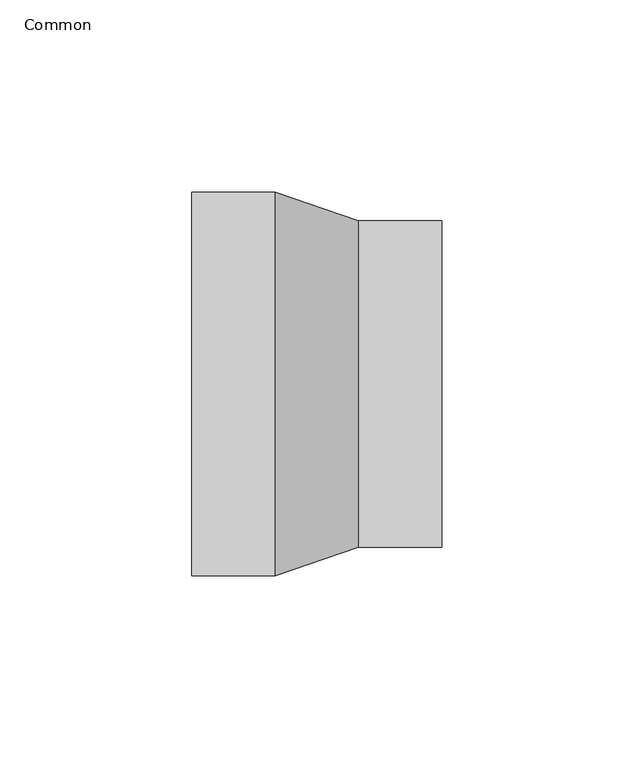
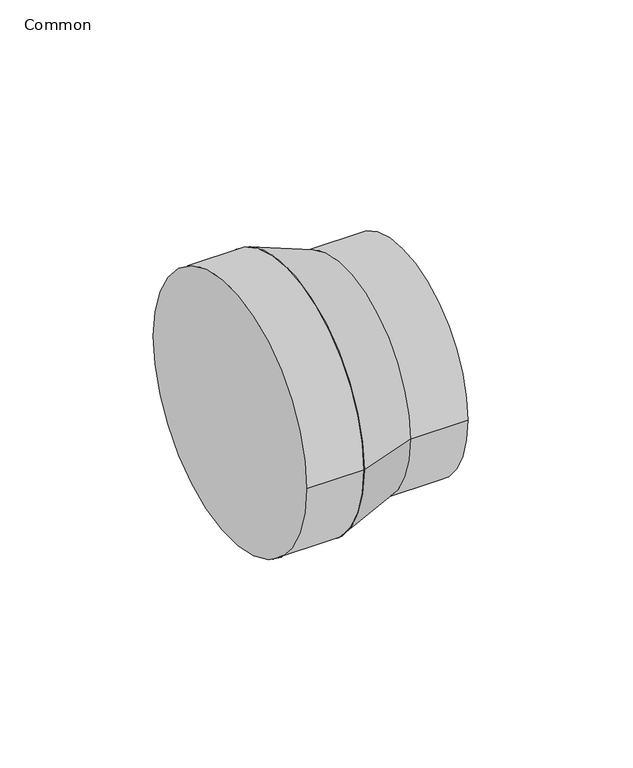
"""IFC4 building model written with IfcOpenShell, lengths in millimetres: pipe fitting geometry, 041_レジューサ : Common."""

import ifcopenshell
import ifcopenshell.guid

model = None  # the IFC model being written
_history = None  # IfcOwnerHistory: only IFC2X3 demands one
_inside = {}  # id of a spatial element -> (the spatial element, [elements in it])
_under = {}  # id of a project, library or spatial element -> (it, [spatial elements below it])
_declared = {}  # id of a project -> (the project, [libraries it declares])
_typed = {}  # id of a type object -> (the type object, [elements of that type])
_made_of = {}  # id of a material, layer set ... -> (it, [elements and type objects made of it])


def new_model(schema):
    """Start an empty IFC model of exactly this schema.

    Asked for "IFC4X3", IfcOpenShell would pick the latest addendum, in which some entities
    have other attributes; the version numbers below select the first issue.
    IFC2X3 requires an IfcOwnerHistory on every rooted entity: one is made here for all.
    """
    global model, _history
    if schema == "IFC4X3":
        model = ifcopenshell.file(schema_version=(4, 3, 0, 0))
    else:
        model = ifcopenshell.file(schema=schema)
    _inside.clear()
    _under.clear()
    _declared.clear()
    _typed.clear()
    _made_of.clear()
    _history = None
    if model.schema == "IFC2X3":
        org = make("IfcOrganization", Name="unknown")
        user = make(
            "IfcPersonAndOrganization",
            ThePerson=make("IfcPerson", FamilyName="unknown"),
            TheOrganization=org,
        )
        app = make(
            "IfcApplication",
            ApplicationDeveloper=org,
            Version="unknown",
            ApplicationFullName="unknown",
            ApplicationIdentifier="unknown",
        )
        _history = make(
            "IfcOwnerHistory",
            OwningUser=user,
            OwningApplication=app,
            ChangeAction="ADDED",
            CreationDate=0,
        )
    return model


def make(cls, **values):
    """One entity of the class cls with the attributes given. An attribute that is None is left unset."""
    return model.create_entity(
        cls, **{name: value for name, value in values.items() if value is not None}
    )


def rooted(cls, **values):
    """An entity with a GlobalId (a new one), such as an element, a storey or a relation."""
    return make(cls, GlobalId=ifcopenshell.guid.new(), OwnerHistory=_history, **values)


def si_unit(unit_type, name, prefix=None):
    """IfcSIUnit, for example si_unit("LENGTHUNIT", "METRE", prefix="MILLI")."""
    return make("IfcSIUnit", UnitType=unit_type, Prefix=prefix, Name=name)


def assignment(units):
    """IfcUnitAssignment: the units of a project."""
    return None if units is None else make("IfcUnitAssignment", Units=units)


def point(xyz):
    """IfcCartesianPoint."""
    return None if xyz is None else make("IfcCartesianPoint", Coordinates=xyz)


def direction(xyz):
    """IfcDirection."""
    return None if xyz is None else make("IfcDirection", DirectionRatios=xyz)


def frame(location, z_axis=None, x_axis=None):
    """IfcAxis2Placement3D, a coordinate frame: its origin and axes. An axis left out is left unset."""
    return make(
        "IfcAxis2Placement3D",
        Location=point(location),
        Axis=direction(z_axis),
        RefDirection=direction(x_axis),
    )


def frame_2d(location, x_axis=None):
    """IfcAxis2Placement2D, a coordinate frame in the plane: its origin and x axis."""
    return make(
        "IfcAxis2Placement2D", Location=point(location), RefDirection=direction(x_axis)
    )


def origin():
    """The frame at (0, 0, 0) with its axes left unset."""
    return frame((0.0, 0.0, 0.0))


def origin_2d():
    """The frame at (0, 0) in the plane with its x axis left unset."""
    return frame_2d((0.0, 0.0))


def place(relative_to, where):
    """IfcLocalPlacement: puts the frame where relative to a parent placement (None: the world)."""
    return make(
        "IfcLocalPlacement", PlacementRelTo=relative_to, RelativePlacement=where
    )


def context(
    kind, dimensions, precision=None, world=None, true_north=None, identifier=None
):
    """IfcGeometricRepresentationContext, for example the 3D "Model" context."""
    return make(
        "IfcGeometricRepresentationContext",
        ContextIdentifier=identifier,
        ContextType=kind,
        CoordinateSpaceDimension=dimensions,
        Precision=precision,
        WorldCoordinateSystem=world,
        TrueNorth=true_north,
    )


def project(units=None, contexts=None):
    """IfcProject with its units and contexts."""
    return rooted(
        "IfcProject",
        Name="project",
        RepresentationContexts=contexts,
        UnitsInContext=assignment(units),
    )


def spatial(cls, under=None, at=None, **own):
    """A site, building, storey or space (cls), placed at a placement, below another one or the project."""
    s = rooted(cls, ObjectPlacement=at, **own)
    if under is not None:
        _under.setdefault(under.id(), (under, []))[1].append(s)
    return s


def polyline(points):
    """IfcPolyline through the points."""
    return make("IfcPolyline", Points=[point(p) for p in points])


def circle_curve(where, radius):
    """IfcCircle in the frame where."""
    return make("IfcCircle", Position=where, Radius=radius)


def trimmed(basis, trim1, trim2, sense, master):
    """IfcTrimmedCurve: the piece of a basis curve between two trims."""
    return make(
        "IfcTrimmedCurve",
        BasisCurve=basis,
        Trim1=trim1,
        Trim2=trim2,
        SenseAgreement=sense,
        MasterRepresentation=master,
    )


def segment(curve, same_sense, transition):
    """IfcCompositeCurveSegment."""
    return make(
        "IfcCompositeCurveSegment",
        Transition=transition,
        SameSense=same_sense,
        ParentCurve=curve,
    )


def composite_curve(segments, self_intersect=None):
    """IfcCompositeCurve: segments joined end to end."""
    return make("IfcCompositeCurve", Segments=segments, SelfIntersect=self_intersect)


def outline(outer, holes=None, kind="AREA"):
    """IfcArbitraryClosedProfileDef: a profile drawn as a closed curve; with holes, ...WithVoids."""
    if holes is None:
        return make("IfcArbitraryClosedProfileDef", ProfileType=kind, OuterCurve=outer)
    return make(
        "IfcArbitraryProfileDefWithVoids",
        ProfileType=kind,
        OuterCurve=outer,
        InnerCurves=holes,
    )


def extrude(swept, where, along, depth):
    """IfcExtrudedAreaSolid: the profile swept, set in the frame where, extruded along a direction by depth."""
    return make(
        "IfcExtrudedAreaSolid",
        SweptArea=swept,
        Position=where,
        ExtrudedDirection=direction(along),
        Depth=depth,
    )


def shape(context_of_items, identifier, shape_type, items):
    """IfcShapeRepresentation: the items that make up one representation, for example the "Body"."""
    return make(
        "IfcShapeRepresentation",
        ContextOfItems=context_of_items,
        RepresentationIdentifier=identifier,
        RepresentationType=shape_type,
        Items=items,
    )


def source(mapping_origin, context_of_items, identifier, shape_type, items):
    """IfcRepresentationMap: a shape defined once, which mapped items show again and again."""
    return make(
        "IfcRepresentationMap",
        MappingOrigin=mapping_origin,
        MappedRepresentation=shape(context_of_items, identifier, shape_type, items),
    )


def transform(
    local_origin,
    x_axis=None,
    y_axis=None,
    z_axis=None,
    scale=None,
    scale2=None,
    scale3=None,
    uniform=True,
):
    """IfcCartesianTransformationOperator3D, or its non-uniform kind. x_axis, y_axis, z_axis: its Axis1, 2, 3."""
    if uniform:
        return make(
            "IfcCartesianTransformationOperator3D",
            Axis1=direction(x_axis),
            Axis2=direction(y_axis),
            LocalOrigin=point(local_origin),
            Scale=scale,
            Axis3=direction(z_axis),
        )
    return make(
        "IfcCartesianTransformationOperator3DnonUniform",
        Axis1=direction(x_axis),
        Axis2=direction(y_axis),
        LocalOrigin=point(local_origin),
        Scale=scale,
        Axis3=direction(z_axis),
        Scale2=scale2,
        Scale3=scale3,
    )


def mapped(mapping_source, mapping_target):
    """IfcMappedItem: shows the shape of a source again, moved by a transform."""
    return make(
        "IfcMappedItem", MappingSource=mapping_source, MappingTarget=mapping_target
    )


def made_of(thing, what):
    """Note that an element or type object is made of a material, layer set ...; save() writes the relation."""
    if what is not None:
        _made_of.setdefault(what.id(), (what, []))[1].append(thing)
    return thing


def element(
    cls,
    number,
    at=None,
    inside=None,
    cuts=None,
    type_object=None,
    material=None,
    context=None,
    identifier="Body",
    shape_type=None,
    held_by="IfcProductDefinitionShape",
    body=None,
    shapes=None,
    **own,
):
    """One element of the class cls, such as IfcWall. Its Tag is "e" and its number.

    at: its placement. inside: the storey or other place that contains it. cuts: it is an
    opening in that element (IfcRelVoidsElement). A single representation is given by context,
    identifier, shape_type and body (its items); several are given by shapes. held_by: the class
    of the entity that holds the representations. save() writes the other relations.
    """
    e = rooted(cls, Tag="e%d" % number, ObjectPlacement=at, **own)
    if body is not None:
        shapes = [shape(context, identifier, shape_type, body)]
    if shapes is not None:
        e.Representation = make(held_by, Representations=shapes)
    if inside is not None:
        _inside.setdefault(inside.id(), (inside, []))[1].append(e)
    if cuts is not None:
        rooted(
            "IfcRelVoidsElement", RelatingBuildingElement=cuts, RelatedOpeningElement=e
        )
    if type_object is not None:
        _typed.setdefault(type_object.id(), (type_object, []))[1].append(e)
    return made_of(e, material)


def aggregate(whole, parts):
    """IfcRelAggregates: a whole, such as a stair, and the parts it consists of."""
    return rooted("IfcRelAggregates", RelatingObject=whole, RelatedObjects=parts)


def save(model, path):
    """Write the relations noted so far, then the file.

    IfcRelAggregates (storeys below a building ...), IfcRelContainedInSpatialStructure (elements
    in a storey), IfcRelDefinesByType, IfcRelAssociatesMaterial and IfcRelDeclares: one each for
    every whole, place, type object, material and project.
    """
    for whole, parts in _under.values():
        aggregate(whole, parts)
    for where, things in _inside.values():
        rooted(
            "IfcRelContainedInSpatialStructure",
            RelatedElements=things,
            RelatingStructure=where,
        )
    for kind, things in _typed.values():
        rooted("IfcRelDefinesByType", RelatedObjects=things, RelatingType=kind)
    for what, things in _made_of.values():
        rooted("IfcRelAssociatesMaterial", RelatedObjects=things, RelatingMaterial=what)
    for by, libraries in _declared.values():
        rooted("IfcRelDeclares", RelatingContext=by, RelatedDefinitions=libraries)
    model.write(path)


def plane_surface(at):
    """IfcPlane: the flat surface through the origin of the frame at, square to its z axis."""
    return make("IfcPlane", Position=at)


def revolved_surface(curve, axis_point, axis_direction):
    """IfcSurfaceOfRevolution: the curve turned about the line through axis_point along axis_direction."""
    return make(
        "IfcSurfaceOfRevolution",
        SweptCurve=make("IfcArbitraryOpenProfileDef", ProfileType="CURVE", Curve=curve),
        AxisPosition=make("IfcAxis1Placement", Location=point(axis_point), Axis=direction(axis_direction)),
    )


def advanced_brep(points, edges, surfaces, faces):
    """IfcAdvancedBrep: a solid bounded by faces that lie on surfaces and meet in shared edges.

    An edge is (start, end): straight between two places in points (the first is 0);
    or (start, end, curve); or (start, end, curve, False) where it runs against its curve.
    A face is (place in surfaces, loops), or (place, loops, False) where it looks against
    its surface's normal. A loop lists edges by number (the first is 1), with a minus sign
    where the edge is run from its end to its start. The first loop is the outer one.
    """
    corners = [point(p) for p in points]
    vertices = [make("IfcVertexPoint", VertexGeometry=c) for c in corners]
    made = []
    for start, end, *more in edges:
        made.append(
            make(
                "IfcEdgeCurve",
                EdgeStart=vertices[start],
                EdgeEnd=vertices[end],
                EdgeGeometry=more[0] if more else make("IfcPolyline", Points=[corners[start], corners[end]]),
                SameSense=more[1] if len(more) > 1 else True,
            )
        )
    hull = []
    for where, loops, *sense in faces:
        bounds = []
        for j, loop in enumerate(loops):
            ring = [make("IfcOrientedEdge", EdgeElement=made[abs(k) - 1], Orientation=k > 0) for k in loop]
            bounds.append(
                make(
                    "IfcFaceOuterBound" if j == 0 else "IfcFaceBound",
                    Bound=make("IfcEdgeLoop", EdgeList=ring),
                    Orientation=True,
                )
            )
        hull.append(make("IfcAdvancedFace", Bounds=bounds, FaceSurface=surfaces[where], SameSense=sense[0] if sense else True))
    return make("IfcAdvancedBrep", Outer=make("IfcClosedShell", CfsFaces=hull))


def common_de995b14(model_context):
    return source(origin(), model_context, "Body", "SolidModel", [
        advanced_brep(
        [(43.3333333, -42.5, 0.0), (43.3333333, 42.5, 0.0), (21.6666667, -50.0, 0.0), (21.6666667, 50.0, 0.0)],
        [
            (0, 1, circle_curve(frame((43.3333333, 0.0, 0.0), z_axis=(1.0, 0.0, 0.0), x_axis=(0.0, -1.0, 0.0)), 42.5)),
            (1, 0, circle_curve(frame((43.3333333, 0.0, 0.0), z_axis=(1.0, 0.0, 0.0), x_axis=(0.0, 1.0, 0.0)), 42.5)),
            (2, 3, circle_curve(frame((21.6666667, 0.0, 0.0), z_axis=(-1.0, 0.0, 0.0), x_axis=(0.0, 1.0, 0.0)), 50.0)),
            (3, 2, circle_curve(frame((21.6666667, 0.0, 0.0), z_axis=(-1.0, 0.0, 0.0), x_axis=(0.0, -1.0, 0.0)), 50.0)),
            (3, 1),
            (0, 2),
        ],
        [
            plane_surface(frame((43.3333333, 0.0, 0.0), z_axis=(1.0, 0.0, 0.0), x_axis=(0.0, 0.0, -1.0))),
            plane_surface(frame((21.6666667, 0.0, 0.0), z_axis=(-1.0, 0.0, 0.0), x_axis=(0.0, 0.0, -1.0))),
            revolved_surface(polyline([(43.33333329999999, -42.500000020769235, 0.0), (21.666666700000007, -50.0, 0.0)]), (166.1111111, 0.0, 0.0), (-1.0, 0.0, 0.0)),
            revolved_surface(polyline([(43.33333329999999, 42.500000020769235, 0.0), (21.666666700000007, 50.0, 0.0)]), (166.1111111, 0.0, 0.0), (-1.0, 0.0, 0.0)),
        ],
        [
            (0, [[1, 2]]),
            (1, [[3, 4]]),
            (2, [[-4, 5, -1, 6]]),
            (3, [[-3, -6, -2, -5]]),
        ],
    ),
        extrude(outline(composite_curve([segment(trimmed(circle_curve(origin_2d(), 42.5), [point((-42.5, 0.0))], [point((42.5, 0.0))], False, "CARTESIAN"), True, "CONTINUOUS"), segment(trimmed(circle_curve(origin_2d(), 42.5), [point((42.5, 0.0))], [point((-42.5, 0.0))], False, "CARTESIAN"), True, "CONTINUOUS")], self_intersect=False)), frame((43.3333333, 0.0, 0.0), z_axis=(1.0, 0.0, 0.0), x_axis=(0.0, 1.0, 0.0)), (0.0, 0.0, 1.0), 21.6666667),
        extrude(outline(composite_curve([segment(trimmed(circle_curve(origin_2d(), 50.0), [point((-50.0, 0.0))], [point((50.0, 0.0))], False, "CARTESIAN"), True, "CONTINUOUS"), segment(trimmed(circle_curve(origin_2d(), 50.0), [point((50.0, 0.0))], [point((-50.0, 0.0))], False, "CARTESIAN"), True, "CONTINUOUS")], self_intersect=False)), frame((0.0, 0.0, 0.0), z_axis=(1.0, 0.0, 0.0), x_axis=(0.0, 1.0, 0.0)), (0.0, 0.0, 1.0), 21.6666667),
    ])


if __name__ == "__main__":
    model = new_model("IFC4")
    model_context = context("Model", 3, world=origin())
    ifc_project = project(units=[si_unit("LENGTHUNIT", "METRE", prefix="MILLI")], contexts=[model_context])
    site = spatial("IfcSite", under=ifc_project)
    building = spatial("IfcBuilding", under=site)
    placement = place(None, origin())
    common_shape = common_de995b14(model_context)
    element("IfcPipeFitting", 1, ObjectType="041_レジューサ : Common", at=placement, inside=building, context=model_context, shape_type="MappedRepresentation", body=[
        mapped(common_shape, transform((0.0, 0.0, 0.0), x_axis=(1.0, 0.0, 0.0), y_axis=(0.0, 1.0, 0.0), z_axis=(0.0, 0.0, 1.0))),
    ])
    save(model, "model.ifc")
